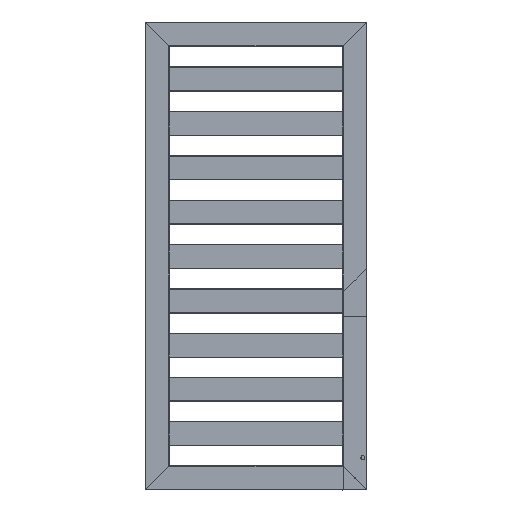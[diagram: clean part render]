
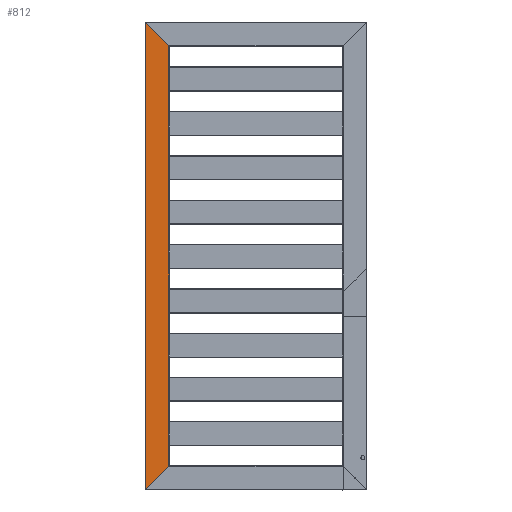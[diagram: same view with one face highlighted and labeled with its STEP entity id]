
A CAD part, top view. The second image highlights one B-rep face of the part: STEP entity #812.
In plain terms, the highlighted planar face has unit normal (0, 0, 1) as drawn and (0, 0, -1) by its records, which use the part's own axes.
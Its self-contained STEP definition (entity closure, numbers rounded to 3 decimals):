
#812 = ADVANCED_FACE( '', ( #1778 ), #1779, .T. );
#1778 = FACE_OUTER_BOUND( '', #3115, .T. );
#1779 = PLANE( '', #3116 );
#3115 = EDGE_LOOP( '', ( #5114, #5115, #5116, #5117 ) );
#3116 = AXIS2_PLACEMENT_3D( '', #5118, #5119, #5120 );
#5114 = ORIENTED_EDGE( '', *, *, #7369, .F. );
#5115 = ORIENTED_EDGE( '', *, *, #6909, .T. );
#5116 = ORIENTED_EDGE( '', *, *, #6889, .T. );
#5117 = ORIENTED_EDGE( '', *, *, #7383, .F. );
#5118 = CARTESIAN_POINT( '', ( 1., 1160., 0. ) );
#5119 = DIRECTION( '', ( 0., 0., -1. ) );
#5120 = DIRECTION( '', ( -1., 0., 0. ) );
#6889 = EDGE_CURVE( '', #8111, #8112, #8113, .T. );
#6909 = EDGE_CURVE( '', #8146, #8111, #8147, .T. );
#7369 = EDGE_CURVE( '', #8146, #8892, #8893, .T. );
#7383 = EDGE_CURVE( '', #8892, #8112, #8914, .T. );
#8111 = VERTEX_POINT( '', #9922 );
#8112 = VERTEX_POINT( '', #9923 );
#8113 = LINE( '', #9924, #9925 );
#8146 = VERTEX_POINT( '', #9969 );
#8147 = LINE( '', #9970, #9971 );
#8892 = VERTEX_POINT( '', #11229 );
#8893 = LINE( '', #11230, #11231 );
#8914 = LINE( '', #11257, #11258 );
#9922 = CARTESIAN_POINT( '', ( 59., 1159., 0. ) );
#9923 = CARTESIAN_POINT( '', ( 59., 1., 0. ) );
#9924 = CARTESIAN_POINT( '', ( 59., 1160., 0. ) );
#9925 = VECTOR( '', #12253, 1000. );
#9969 = CARTESIAN_POINT( '', ( 1., 1101., 0. ) );
#9970 = CARTESIAN_POINT( '', ( 30.5, 1130.5, 0. ) );
#9971 = VECTOR( '', #12276, 1000. );
#11229 = CARTESIAN_POINT( '', ( 1., 59., 0. ) );
#11230 = CARTESIAN_POINT( '', ( 1., 1160., 0. ) );
#11231 = VECTOR( '', #12917, 1000. );
#11257 = CARTESIAN_POINT( '', ( -549.5, 609.5, 0. ) );
#11258 = VECTOR( '', #12938, 1000. );
#12253 = DIRECTION( '', ( 0., -1., 0. ) );
#12276 = DIRECTION( '', ( 0.707, 0.707, 0. ) );
#12917 = DIRECTION( '', ( 0., -1., 0. ) );
#12938 = DIRECTION( '', ( 0.707, -0.707, 0. ) );
